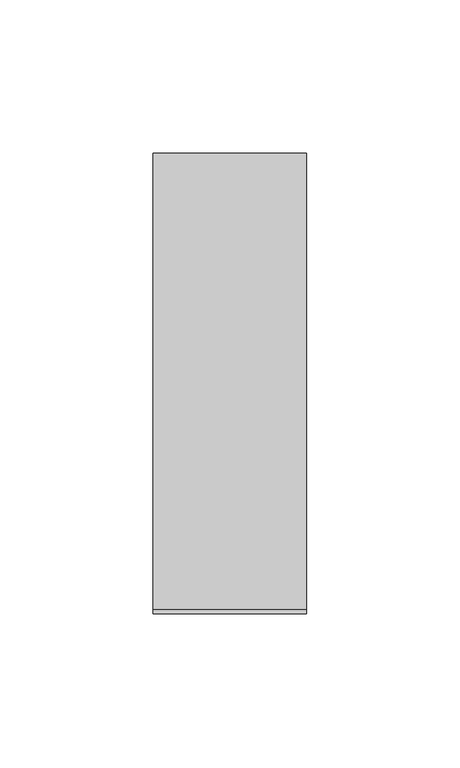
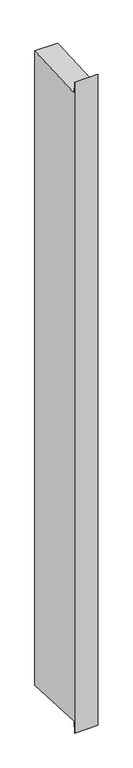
"""IFC4 building model written with IfcOpenShell, lengths in millimetres: member geometry, Прямоугольный импост : 50 x 150 мм."""

from ifc_helpers import new_model, si_unit, frame, origin, place, context, project, spatial, polyline, outline, extrude, source, transform, mapped, element, save


def member_e25a209d(model_context):
    return source(origin(), model_context, "Body", "SweptSolid", [
        extrude(outline(polyline([(-75.0, 23.0789758), (-73.6218125, -3.8067479), (75.0, 3.8117461), (75.0, -1453.8117461), (-73.6218125, -1446.1932521), (-75.0, -1473.0789758), (-75.0, 23.0789758)])), frame((-50.0, 0.0, 0.0), z_axis=(1.0, 0.0, 0.0), x_axis=(0.0, 1.0, 0.0)), (0.0, 0.0, 1.0), 50.0),
    ])


if __name__ == "__main__":
    model = new_model("IFC4")
    model_context = context("Model", 3, world=origin())
    ifc_project = project(units=[si_unit("LENGTHUNIT", "METRE", prefix="MILLI")], contexts=[model_context])
    site = spatial("IfcSite", under=ifc_project)
    building = spatial("IfcBuilding", under=site)
    placement = place(None, origin())
    member_shape = member_e25a209d(model_context)
    element("IfcMember", 1, ObjectType="Прямоугольный импост : 50 x 150 мм", at=placement, inside=building, context=model_context, shape_type="MappedRepresentation", body=[
        mapped(member_shape, transform((0.0, 0.0, 0.0), x_axis=(1.0, 0.0, 0.0), y_axis=(0.0, 1.0, 0.0), z_axis=(0.0, 0.0, 1.0))),
    ])
    save(model, "model.ifc")
